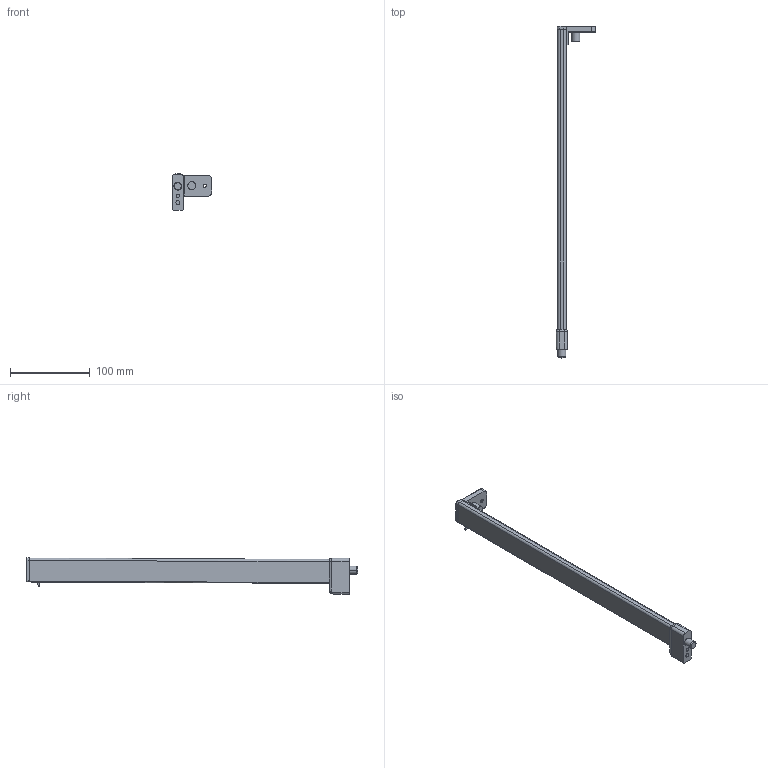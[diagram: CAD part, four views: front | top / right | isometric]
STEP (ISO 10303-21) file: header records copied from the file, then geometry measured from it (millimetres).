
FILE_DESCRIPTION (( 'STEP AP214' ), '1' );
FILE_NAME ('_2S_REL_7606_NL400_LI.step', '2010-07-01T14:41:45', ( 'grass' ), ( '' ), 'SwSTEP 2.0', 'SolidWorks 2009', '' );
FILE_SCHEMA (( 'AUTOMOTIVE_DESIGN' ));
Length unit declared in the file: millimetre
Products named in the file (1): _2S_REL_7606_NL400_LI
Bounding box: 49.25 x 415.5 x 45.4 mm (x, y, z)
Volume: 138522.5 mm3; surface area: 37567.9 mm2
Topology: 2 solids, 2 shells, 120 faces, 292 edges, 178 vertices
Faces by surface type: cylinder 58, plane 40, bspline 10, torus 6, cone 4, sphere 2
Entity records: 4528 total; most frequent: CARTESIAN_POINT 1803, ORIENTED_EDGE 580, DIRECTION 546, EDGE_CURVE 290, AXIS2_PLACEMENT_3D 203, VERTEX_POINT 178, LINE 140, VECTOR 140
